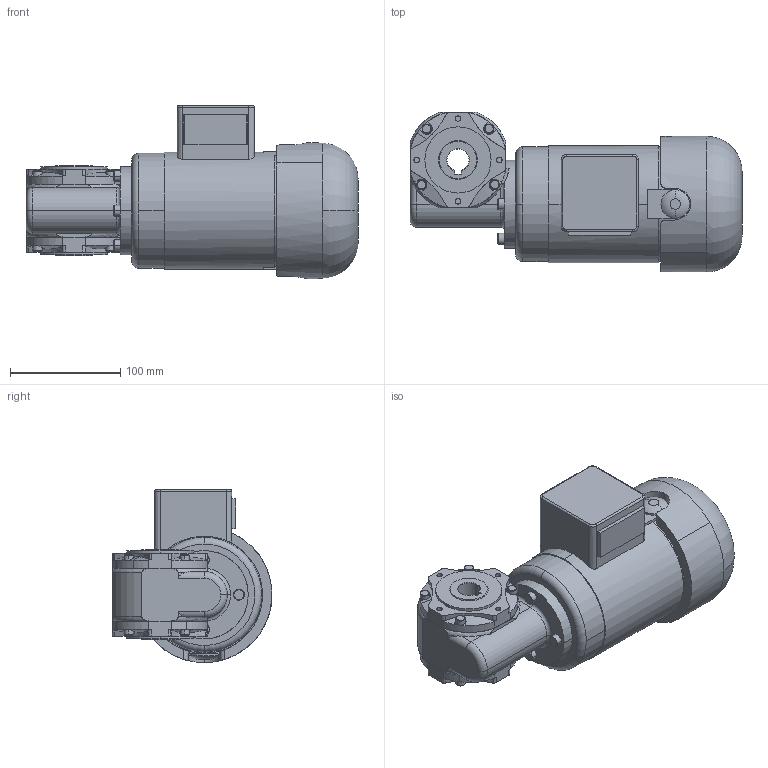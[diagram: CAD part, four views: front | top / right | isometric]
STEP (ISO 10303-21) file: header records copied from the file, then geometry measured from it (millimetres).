
FILE_DESCRIPTION(('OneSpaceDesigner STEP Export'),'2;1');
FILE_NAME('KGOG61-62_GB140_H.stp','2008-08-19T13:51:24',(''),(''),'OneSpace Designer STEP processor (Jan. 2003) for AP214(CD)(Solid Model)','OneSpace Designer 12.01D 09-Jul-2004 (C) CoCreate Software GmbH','');
FILE_SCHEMA(('AUTOMOTIVE_DESIGN_CC2 {1 2 10303 214 -1 1 5 1}'));
Length unit declared in the file: millimetre
Products named in the file (2): KGOG61-62_GB140_H
Assembly tree (1 placements, depth 2):
  KGOG61-62_GB140_H
    KGOG61-62_GB140_H
Bounding box: 301 x 145 x 157 mm (x, y, z)
Volume: 2749530.7 mm3; surface area: 150471.7 mm2
Topology: 1 solids, 1 shells, 328 faces, 837 edges, 541 vertices
Faces by surface type: cylinder 147, plane 105, cone 44, torus 20, bspline 8, extrusion 4
Entity records: 18372 total; most frequent: CARTESIAN_POINT 11190, ORIENTED_EDGE 1674, DIRECTION 1139, EDGE_CURVE 837, VERTEX_POINT 541, AXIS2_PLACEMENT_3D 401, EDGE_LOOP 360, VECTOR 337
